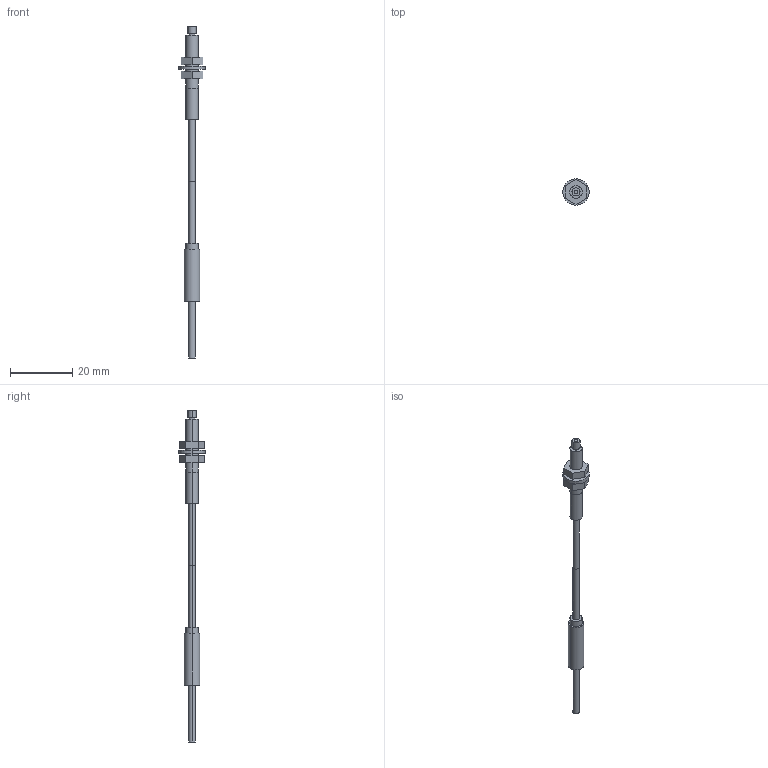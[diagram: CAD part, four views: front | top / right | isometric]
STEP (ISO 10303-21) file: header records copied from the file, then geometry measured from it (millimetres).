
FILE_DESCRIPTION (( 'STEP AP203' ), '1' );
FILE_NAME ('FT-H35-M2.STEP', '2005-11-09T08:26:50', ( '' ), ( '' ), 'SwSTEP 2.0', 'SolidWorks 2004073', '' );
FILE_SCHEMA (( 'CONFIG_CONTROL_DESIGN' ));
Length unit declared in the file: millimetre
Products named in the file (1): FT-H35-M2
Bounding box: 8.5 x 8.5 x 107 mm (x, y, z)
Volume: 1089.9 mm3; surface area: 1551.9 mm2
Topology: 7 solids, 7 shells, 60 faces, 120 edges, 80 vertices
Faces by surface type: plane 32, cylinder 28
Entity records: 1657 total; most frequent: DIRECTION 298, CARTESIAN_POINT 261, ORIENTED_EDGE 240, EDGE_CURVE 120, AXIS2_PLACEMENT_3D 117, VERTEX_POINT 80, EDGE_LOOP 72, LINE 64
